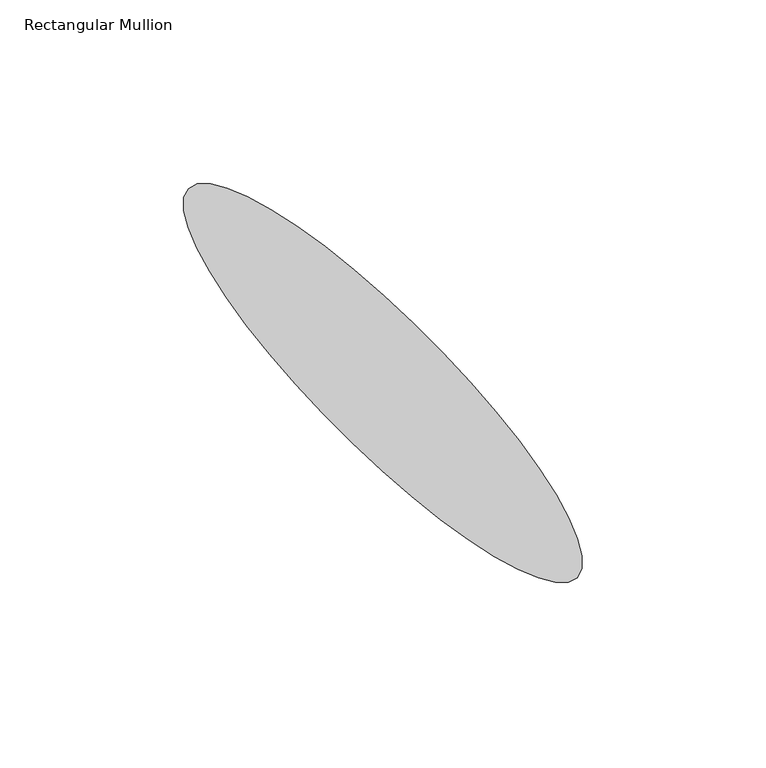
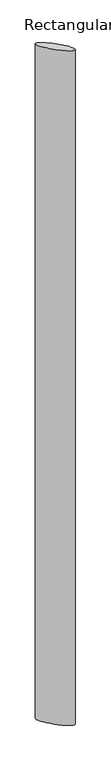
"""IFC4 building model written with IfcOpenShell, lengths in millimetres: member geometry, Rectangular Mullion : RSen_21_CWM_blade - 150 ellips - 45°_gen_duco projects."""

from ifc_helpers import new_model, si_unit, point, frame, origin, place, context, project, spatial, ellipse_curve, trimmed, source, transform, mapped, element, save
from ifc_brep_helpers import plane_surface, extruded_surface, advanced_brep


def rectangular_mullion_37c1fa86(model_context):
    return source(origin(), model_context, "Body", "AdvancedBrep", [
        advanced_brep(
        [(53.0330086, 6.9669914, 0.0), (-53.0330086, 113.0330086, 0.0), (53.0330086, 6.9669914, -3000.0), (-53.0330086, 113.0330086, -3000.0)],
        [
            (0, 1, ellipse_curve(frame((0.0, 60.0, 0.0), z_axis=(0.0, 0.0, 1.0000000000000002), x_axis=(-0.7071067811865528, 0.7071067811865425, 0.0)), 75.0, 17.5)),
            (1, 0, ellipse_curve(frame((0.0, 60.0, 0.0), z_axis=(0.0, 0.0, 1.0000000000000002), x_axis=(-0.7071067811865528, 0.7071067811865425, 0.0)), 75.0, 17.5)),
            (2, 3, ellipse_curve(frame((0.0, 60.0, -3000.0), z_axis=(0.0, 0.0, -1.0000000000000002), x_axis=(-0.7071067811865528, 0.7071067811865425, 0.0)), 75.0, 17.5)),
            (3, 2, ellipse_curve(frame((0.0, 60.0, -3000.0), z_axis=(0.0, 0.0, -1.0000000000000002), x_axis=(-0.7071067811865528, 0.7071067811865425, 0.0)), 75.0, 17.5)),
            (0, 2),
            (3, 1),
        ],
        [
            plane_surface(frame((0.0, -124.8557609, 0.0), z_axis=(0.0, 0.0, 1.0), x_axis=(-1.0, 0.0, 0.0))),
            plane_surface(frame((0.0, -124.8557609, -3000.0), z_axis=(0.0, 0.0, -1.0), x_axis=(-1.0, 0.0, 0.0))),
            extruded_surface(trimmed(ellipse_curve(frame((0.0, 60.0, -3000.0), z_axis=(0.0, 0.0, 1.0000000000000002), x_axis=(-0.7071067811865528, 0.7071067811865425, 0.0)), 75.0, 17.5), [point((53.0330086, 6.9669914, -3000.0))], [point((-53.0330086, 113.0330086, -3000.0))], True, "CARTESIAN"), (0.0, 0.0, 3000.0), 3000.0),
            extruded_surface(trimmed(ellipse_curve(frame((0.0, 60.0, -3000.0), z_axis=(0.0, 0.0, 1.0000000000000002), x_axis=(-0.7071067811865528, 0.7071067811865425, 0.0)), 75.0, 17.5), [point((-53.0330086, 113.0330086, -3000.0))], [point((53.0330086, 6.9669914, -3000.0))], True, "CARTESIAN"), (0.0, 0.0, 3000.0), 3000.0),
        ],
        [
            (0, [[1, 2]]),
            (1, [[3, 4]]),
            (2, [[-1, 5, -4, 6]]),
            (3, [[-2, -6, -3, -5]]),
        ],
    ),
    ])


if __name__ == "__main__":
    model = new_model("IFC4")
    model_context = context("Model", 3, world=origin())
    ifc_project = project(units=[si_unit("LENGTHUNIT", "METRE", prefix="MILLI")], contexts=[model_context])
    site = spatial("IfcSite", under=ifc_project)
    building = spatial("IfcBuilding", under=site)
    placement = place(None, origin())
    rectangular_mullion_shape = rectangular_mullion_37c1fa86(model_context)
    element("IfcMember", 1, ObjectType="Rectangular Mullion : RSen_21_CWM_blade - 150 ellips - 45°_gen_duco projects", at=placement, inside=building, context=model_context, shape_type="MappedRepresentation", body=[
        mapped(rectangular_mullion_shape, transform((0.0, 0.0, 0.0), x_axis=(1.0, 0.0, 0.0), y_axis=(0.0, 1.0, 0.0), z_axis=(0.0, 0.0, 1.0))),
    ])
    save(model, "model.ifc")
